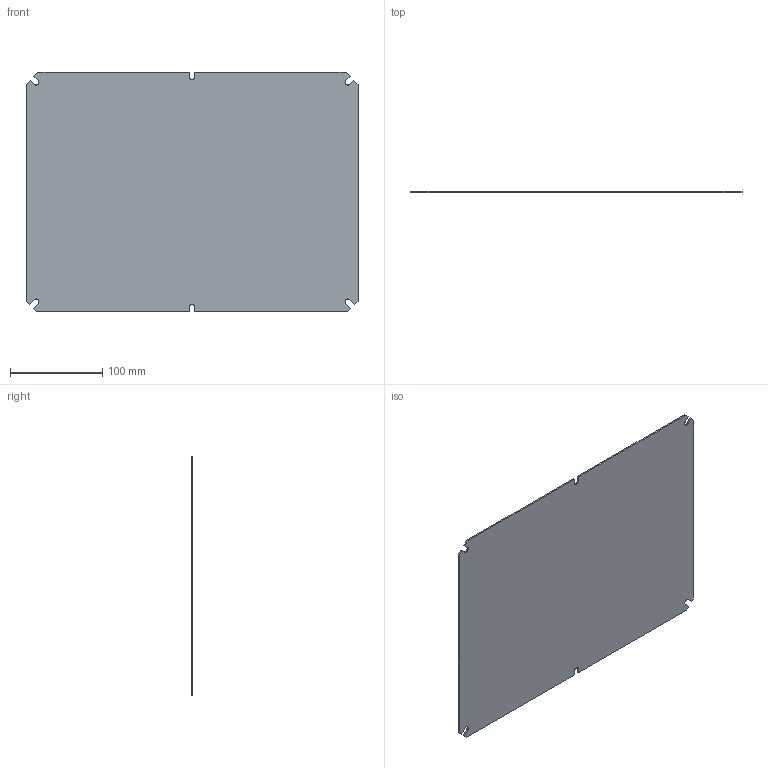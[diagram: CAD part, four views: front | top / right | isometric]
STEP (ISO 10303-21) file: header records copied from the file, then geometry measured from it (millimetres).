
FILE_DESCRIPTION (( 'STEP AP214' ), '1' );
FILE_NAME ('OMP3040.STEP', '2024-12-12T23:27:10', ( '' ), ( '' ), 'SwSTEP 2.0', 'SolidWorks 2024', '' );
FILE_SCHEMA (( 'AUTOMOTIVE_DESIGN' ));
Length unit declared in the file: millimetre
Products named in the file (1): OMP3040
Bounding box: 360 x 1.5 x 260 mm (x, y, z)
Volume: 139493.2 mm3; surface area: 187954.4 mm2
Topology: 1 solids, 1 shells, 37 faces, 105 edges, 70 vertices
Faces by surface type: plane 28, cylinder 9
Entity records: 1220 total; most frequent: CARTESIAN_POINT 213, ORIENTED_EDGE 210, DIRECTION 199, EDGE_CURVE 105, LINE 87, VECTOR 87, VERTEX_POINT 70, AXIS2_PLACEMENT_3D 56
